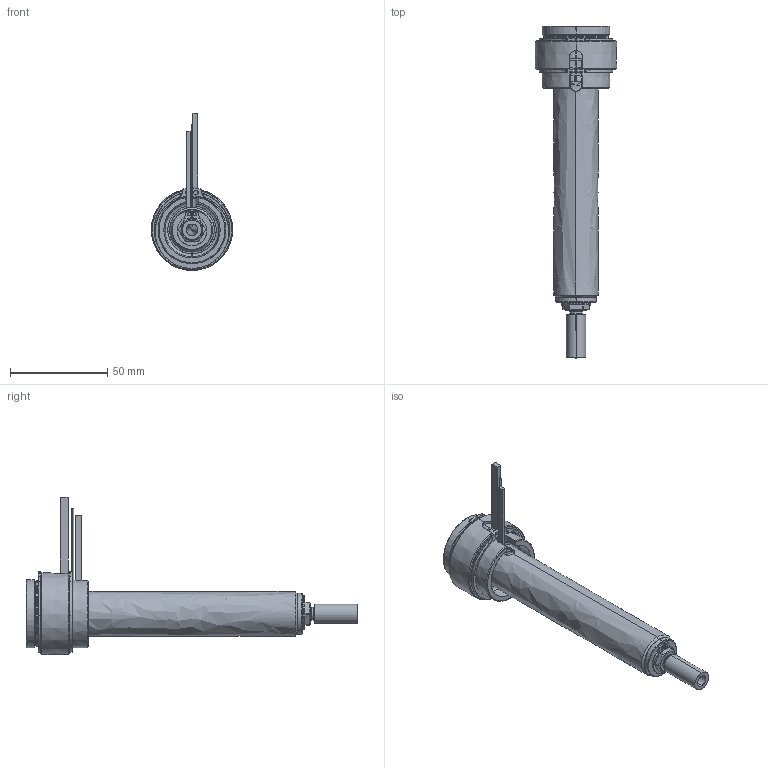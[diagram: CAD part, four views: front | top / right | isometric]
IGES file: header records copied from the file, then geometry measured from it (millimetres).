
Start section: SolidWorks IGES file using analytic representation for surfaces
Global section: file name: C:\Users\luca.EMPAD\Desktop\TEM\UGBE3503-S-A-P-5 [Ød-1.0 P-20 ØC-6.0].IGS; native system: SolidWorks 2012; preprocessor: SolidWorks 2012; author: luca; date: 120330.135539; units: millimetre
Bounding box: 42 x 171 x 80.9 mm (x, y, z)
Surface area: 38394.3 mm2 (no closed solid volume)
Topology: 0 solids, 0 shells, 192 faces, 3598 edges, 3598 vertices
Faces by surface type: revolution 122, bspline 70
